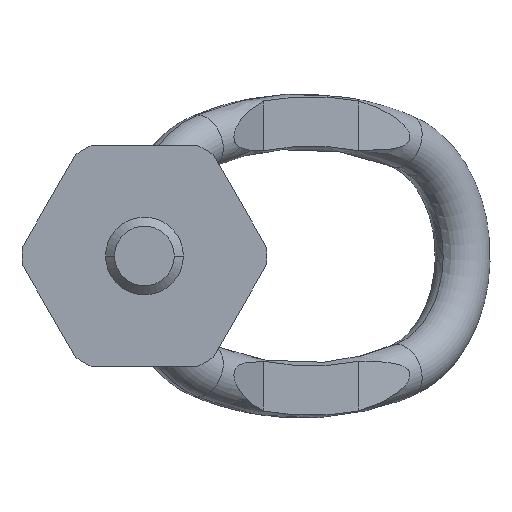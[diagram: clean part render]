
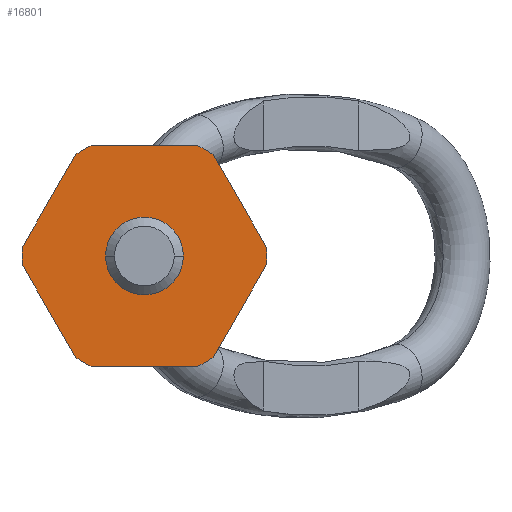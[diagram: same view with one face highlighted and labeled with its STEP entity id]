
A CAD part, front view. The second image highlights one B-rep face of the part: STEP entity #16801.
In plain terms, the highlighted planar face has unit normal (0, -1, 0).
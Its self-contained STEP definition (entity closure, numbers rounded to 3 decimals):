
#13402=DIRECTION('',(0.5,0.,-0.866));
#13403=VECTOR('',#13402,17.436);
#13404=CARTESIAN_POINT('',(-19.947,0.,-1.45));
#13405=LINE('',#13404,#13403);
#13406=DIRECTION('',(0.5,0.,0.866));
#13407=VECTOR('',#13406,17.436);
#13408=CARTESIAN_POINT('',(-19.947,0.,1.45));
#13409=LINE('',#13408,#13407);
#13410=CARTESIAN_POINT('',(0.,0.,0.));
#13411=DIRECTION('',(0.,1.,0.));
#13412=DIRECTION('',(-0.561,0.,0.827));
#13413=AXIS2_PLACEMENT_3D('',#13410,#13411,#13412);
#13415=DIRECTION('',(-1.,0.,0.));
#13416=VECTOR('',#13415,17.436);
#13417=CARTESIAN_POINT('',(8.718,0.,18.));
#13418=LINE('',#13417,#13416);
#13419=CARTESIAN_POINT('',(0.,0.,0.));
#13420=DIRECTION('',(0.,1.,0.));
#13421=DIRECTION('',(0.436,0.,0.9));
#13422=AXIS2_PLACEMENT_3D('',#13419,#13420,#13421);
#13424=DIRECTION('',(-0.5,0.,0.866));
#13425=VECTOR('',#13424,17.436);
#13426=CARTESIAN_POINT('',(19.947,0.,1.45));
#13427=LINE('',#13426,#13425);
#13428=DIRECTION('',(-0.5,0.,-0.866));
#13429=VECTOR('',#13428,17.436);
#13430=CARTESIAN_POINT('',(19.947,0.,-1.45));
#13431=LINE('',#13430,#13429);
#13432=CARTESIAN_POINT('',(0.,0.,0.));
#13433=DIRECTION('',(0.,1.,0.));
#13434=DIRECTION('',(0.561,0.,-0.827));
#13435=AXIS2_PLACEMENT_3D('',#13432,#13433,#13434);
#13437=DIRECTION('',(1.,0.,0.));
#13438=VECTOR('',#13437,17.436);
#13439=CARTESIAN_POINT('',(-8.718,0.,-18.));
#13440=LINE('',#13439,#13438);
#13441=CARTESIAN_POINT('',(0.,0.,0.));
#13442=DIRECTION('',(0.,1.,0.));
#13443=DIRECTION('',(-0.436,0.,-0.9));
#13444=AXIS2_PLACEMENT_3D('',#13441,#13442,#13443);
#13446=CARTESIAN_POINT('',(0.,0.,0.));
#13447=DIRECTION('',(0.,-1.,0.));
#13448=DIRECTION('',(1.,0.,0.));
#13449=AXIS2_PLACEMENT_3D('',#13446,#13447,#13448);
#13451=CARTESIAN_POINT('',(0.,0.,0.));
#13452=DIRECTION('',(0.,-1.,0.));
#13453=DIRECTION('',(-1.,0.,0.));
#13454=AXIS2_PLACEMENT_3D('',#13451,#13452,#13453);
#13469=CARTESIAN_POINT('',(0.,0.,0.));
#13470=DIRECTION('',(0.,-1.,0.));
#13471=DIRECTION('',(-0.997,0.,0.073));
#13472=AXIS2_PLACEMENT_3D('',#13469,#13470,#13471);
#13474=CARTESIAN_POINT('',(0.,0.,0.));
#13475=DIRECTION('',(0.,-1.,0.));
#13476=DIRECTION('',(0.997,0.,-0.073));
#13477=AXIS2_PLACEMENT_3D('',#13474,#13475,#13476);
#15932=CARTESIAN_POINT('',(-19.947,0.,-1.45));
#15933=CARTESIAN_POINT('',(-11.23,0.,-16.55));
#15934=VERTEX_POINT('',#15932);
#15935=VERTEX_POINT('',#15933);
#15936=CARTESIAN_POINT('',(-8.718,0.,-18.));
#15937=CARTESIAN_POINT('',(8.718,0.,-18.));
#15938=VERTEX_POINT('',#15936);
#15939=VERTEX_POINT('',#15937);
#15940=CARTESIAN_POINT('',(19.947,0.,-1.45));
#15941=CARTESIAN_POINT('',(11.23,0.,-16.55));
#15942=VERTEX_POINT('',#15940);
#15943=VERTEX_POINT('',#15941);
#15944=CARTESIAN_POINT('',(19.947,0.,1.45));
#15945=CARTESIAN_POINT('',(11.23,0.,16.55));
#15946=VERTEX_POINT('',#15944);
#15947=VERTEX_POINT('',#15945);
#15948=CARTESIAN_POINT('',(8.718,0.,18.));
#15949=CARTESIAN_POINT('',(-8.718,0.,18.));
#15950=VERTEX_POINT('',#15948);
#15951=VERTEX_POINT('',#15949);
#15952=CARTESIAN_POINT('',(-19.947,0.,1.45));
#15953=CARTESIAN_POINT('',(-11.23,0.,16.55));
#15954=VERTEX_POINT('',#15952);
#15955=VERTEX_POINT('',#15953);
#16024=CARTESIAN_POINT('',(5.05,0.,0.));
#16025=CARTESIAN_POINT('',(-5.05,0.,0.));
#16026=VERTEX_POINT('',#16024);
#16027=VERTEX_POINT('',#16025);
#16764=CARTESIAN_POINT('',(0.,0.,0.));
#16765=DIRECTION('',(0.,1.,0.));
#16766=DIRECTION('',(1.,0.,0.));
#16767=AXIS2_PLACEMENT_3D('',#16764,#16765,#16766);
#16768=PLANE('',#16767);
#16770=ORIENTED_EDGE('',*,*,#16769,.F.);
#16772=ORIENTED_EDGE('',*,*,#16771,.F.);
#16774=ORIENTED_EDGE('',*,*,#16773,.T.);
#16776=ORIENTED_EDGE('',*,*,#16775,.T.);
#16778=ORIENTED_EDGE('',*,*,#16777,.F.);
#16780=ORIENTED_EDGE('',*,*,#16779,.T.);
#16782=ORIENTED_EDGE('',*,*,#16781,.F.);
#16784=ORIENTED_EDGE('',*,*,#16783,.F.);
#16786=ORIENTED_EDGE('',*,*,#16785,.T.);
#16788=ORIENTED_EDGE('',*,*,#16787,.T.);
#16790=ORIENTED_EDGE('',*,*,#16789,.F.);
#16792=ORIENTED_EDGE('',*,*,#16791,.T.);
#16793=EDGE_LOOP('',(#16770,#16772,#16774,#16776,#16778,#16780,#16782,#16784,
#16786,#16788,#16790,#16792));
#16794=FACE_OUTER_BOUND('',#16793,.F.);
#16796=ORIENTED_EDGE('',*,*,#16795,.T.);
#16798=ORIENTED_EDGE('',*,*,#16797,.T.);
#16799=EDGE_LOOP('',(#16796,#16798));
#16800=FACE_BOUND('',#16799,.F.);
#16801=ADVANCED_FACE('',(#16794,#16800),#16768,.F.);
#13414=CIRCLE('',#13413,20.);
#13423=CIRCLE('',#13422,20.);
#13436=CIRCLE('',#13435,20.);
#13445=CIRCLE('',#13444,20.);
#13450=CIRCLE('',#13449,5.05);
#13455=CIRCLE('',#13454,5.05);
#13473=CIRCLE('',#13472,20.);
#13478=CIRCLE('',#13477,20.);
#16769=EDGE_CURVE('',#15934,#15935,#13405,.T.);
#16771=EDGE_CURVE('',#15954,#15934,#13473,.T.);
#16773=EDGE_CURVE('',#15954,#15955,#13409,.T.);
#16775=EDGE_CURVE('',#15955,#15951,#13414,.T.);
#16777=EDGE_CURVE('',#15950,#15951,#13418,.T.);
#16779=EDGE_CURVE('',#15950,#15947,#13423,.T.);
#16781=EDGE_CURVE('',#15946,#15947,#13427,.T.);
#16783=EDGE_CURVE('',#15942,#15946,#13478,.T.);
#16785=EDGE_CURVE('',#15942,#15943,#13431,.T.);
#16787=EDGE_CURVE('',#15943,#15939,#13436,.T.);
#16789=EDGE_CURVE('',#15938,#15939,#13440,.T.);
#16791=EDGE_CURVE('',#15938,#15935,#13445,.T.);
#16795=EDGE_CURVE('',#16026,#16027,#13450,.T.);
#16797=EDGE_CURVE('',#16027,#16026,#13455,.T.);
